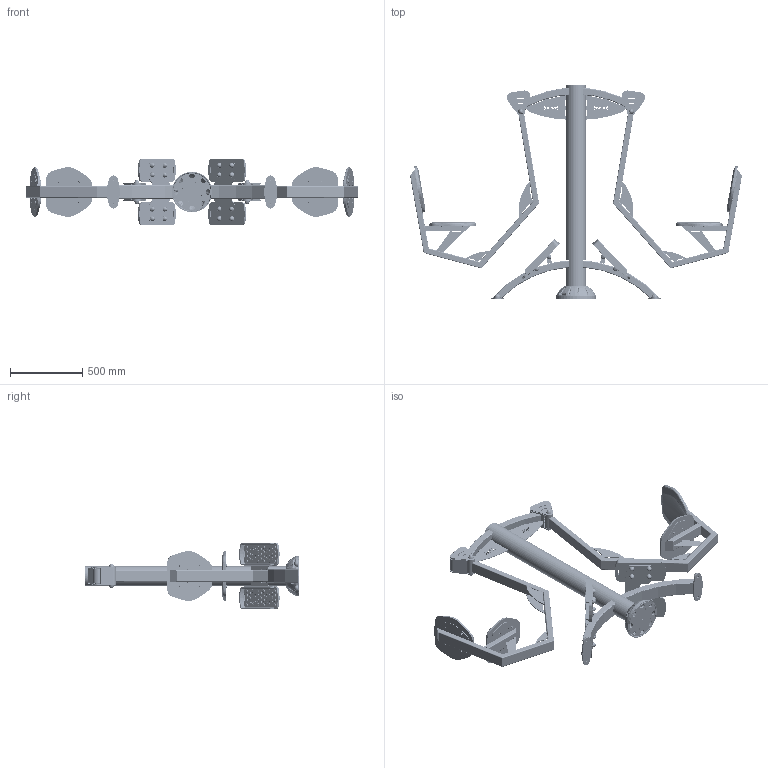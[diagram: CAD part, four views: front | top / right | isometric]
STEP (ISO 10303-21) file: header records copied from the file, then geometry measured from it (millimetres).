
FILE_DESCRIPTION (( 'STEP AP203' ), '1' );
FILE_NAME ('M0303A - QUADRICEPS DOUBLE V1.2.STEP', '2020-02-17T13:13:14', ( '' ), ( '' ), 'SwSTEP 2.0', 'SolidWorks 2019', '' );
FILE_SCHEMA (( 'CONFIG_CONTROL_DESIGN' ));
Length unit declared in the file: millimetre
Products named in the file (66): SRR0816 - Roulement  6204 47-20-14; SC0308 - Base pour capuchon en nylon 44 mm; SBB2108 - Plaque latérale courte pour chape 110 ep.6 boite a butee V1.0__; SBB2101.B - Flasque boite a butee V1.4; SR0415 - Rondelle Grower M8 A2; PU-TOLPLAT - Platine base V1.0; BATI-M0303A-F - CHASSIS QUADRICEPS-QUADRICEPS ASS V1.0_RAL7012; SSD0720 - SIEGE DOSSIER ASS V1.2_‚p.3 - Fixation dossier; SB0122 - Vis CHC M8x35 inox A2; TRECT-R750 - Tube rectangulaire cintré R750 100x50x3 L775 V1.0_RAL7012; SC0306C - Petit capuchon en nylon 36 mm; POTSIEG-M0303 - POTENCE SIEGE QUADRICEPS ASS V1.5; SRP0206 - Repose pied V3.1; SC0309 - Petit capuchon en nylon 44 mm; SSD0720 - Dossier-siège V1.2; SB0101 - Vis CHC M8x40 inox A2; PU-TOLGORPQUA - gousset repose pied Quadriceps V1.1; PU-TDRFIT281 - Tole renfort Fitpark L281 H170 V1.0; TOLGOUDINFQUA - Tôle Gousset double inferieur quadriceps V1.0 .; SRP0206 - REPOSE PIED ASS V4.0_Capuchon Ｑ 5; SA1409A - Axe Inox D.20mm L156,3mm V1.0; SSD0720 - SIEGE DOSSIER ASS V1.2_‚p.5 - Fixation dossier; SBB2140 - BOITE A BUTEE AVEC DOUBLE ARRONDIS FERMES ASS V1.0_Chape 110; SUPPORT BUTEE CHAPE 110 ASS V4.3_Avec but‚e simple + but‚e double + cale 6 mm; PU-TOLGOSIQUA - Gousset siège Quadriceps V2.0; SCH1806.A - Chapeau D135 V1.2; PU-TOLGOPL - Gousset platine V2.0; TRECT-R750 - Tube rectangulaire cintré R750 100x50x3 L1310 V1.0; ARTICULATION D60 CHAPE 110 V4.0_Avec rondelle SR0431; SSD0718 - Demi plaque dossier béton pour tube 80x40 V1.1; SF1100 - Ecrou frein M8 A2; SBU1008 - Butee elastomere 60x55x20 V1.0; TOLAPQUA - Tole appui pieds Quadriceps V1.0; SCH1808 - Chapeau 76x51 pour tube 80x40 coupe à 45°; TREPOSIE-M0303 - Tube potence siège Quadriceps V1.1; SBB2102 - Plaque latérale pour chape 110 ep.6 boite a butee V1.2__; SBB2109 - Cale pour butee ep.6 V1.0; SSD0720 - SIEGE DOSSIER ASS V1.2_‚p.5 - Fixation siŠge; SBA1600 - Bague 6204 L107 V1.0; SSD0716 - Demi support siège béton pour tube 80x40 V1.1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
Assembly tree (263 placements, depth 4):
  M0303A - QUADRICEPS DOUBLE V1.2
    BATI-M0303A-F - CHASSIS QUADRICEPS-QUADRICEPS ASS V1.0_RAL7012
      PLATINE BASE ASS V2.0_RAL7012
        PU-TOLPLAT - Platine base V1.0
        PU-TOLGOPL - Gousset platine V2.0  x4
      PU-TROCB1468 - Colonne base haute D.139,7x3 Ht1468 V2.1
      SCH1806.A - Chapeau D135 V1.2
      PU-TDRFIT281 - Tole renfort Fitpark L281 H170 V1.0  x2
      TRECT-R750 - Tube rectangulaire cintré R750 100x50x3 L1310 V1.0
      SBB2140 - BOITE A BUTEE AVEC DOUBLE ARRONDIS FERMES ASS V1.0_Chape 110
        SBB2102 - Plaque latérale pour chape 110 ep.6 boite a butee V1.2__
        SBB2101.B - Flasque boite a butee V1.4  x2
        SBB2108 - Plaque latérale courte pour chape 110 ep.6 boite a butee V1.0__  x2
        SBB2107 - Arrondi ferme boite a butee pour chape 110 V1.0  x2
      TOLPL-230-90.A - Platine 230x90 V1.0  x2
      TOLAPQUA - Tole appui pieds Quadriceps V1.0  x2
      PU-TOLGORPQUA - gousset repose pied Quadriceps V1.1  x2
      SBB2140 - BOITE A BUTEE AVEC DOUBLE ARRONDIS FERMES ASS V1.0_Chape 110
        SBB2102 - Plaque latérale pour chape 110 ep.6 boite a butee V1.2__
        SBB2101.B - Flasque boite a butee V1.4  x2
        SBB2108 - Plaque latérale courte pour chape 110 ep.6 boite a butee V1.0__  x2
        SBB2107 - Arrondi ferme boite a butee pour chape 110 V1.0  x2
      TRECT-R750 - Tube rectangulaire cintré R750 100x50x3 L775 V1.0_RAL7012
    POTSIEG-M0303 - POTENCE SIEGE QUADRICEPS ASS V1.5
      TREPOSIE-M0303 - Tube potence siège Quadriceps V1.1
      TRESOSIE-M0303 - Tube sous siège Quadriceps V1.0
      SSD0716 - Demi support siège béton pour tube 80x40 V1.1  x2
      SSD0718 - Demi plaque dossier béton pour tube 80x40 V1.1  x2
      SBA1600 - Bague 6204 L107 V1.0
      SUPPORT BUTEE CHAPE 110 ASS V4.3_Avec but‚e simple + but‚e double + cale 6 mm
        SBB2105.A - Support butee chape 110 V1.1
        SBB2104 - Paroie support butee V4.1  x2
        SBU1007 - Butee elastomere 60x38x20 V1.1_60x38x20
        SF1100 - Ecrou frein M8 A2  x2
        SBB2109 - Cale pour butee ep.6 V1.0
        SB0101 - Vis CHC M8x40 inox A2
        SBU1008 - Butee elastomere 60x55x20 V1.0
        SR0404 - Rondelle plate Moyenne M8 A2  x4
        SB0122 - Vis CHC M8x35 inox A2
      SCH1808 - Chapeau 76x51 pour tube 80x40 coupe à 45°  x2
      PU-TOLGOSIQUA - Gousset siège Quadriceps V2.0
      TOLGODOUPOQUA - Gousset double potence Quadriceps V1.0  x2
      TOLGOUDINFQUA - Tôle Gousset double inferieur quadriceps V1.0 .  x2
    SRP0206 - REPOSE PIED ASS V4.0_Capuchon Ｑ 5
      SRP0206 - Repose pied V3.1
      SR0404 - Rondelle plate Moyenne M8 A2  x4
      SC0306B - Base pour capuchon en nylon 36mm  x4
      SF1100 - Ecrou frein M8 A2  x4
      SC0306C - Petit capuchon en nylon 36 mm  x4
    SRP0206 - REPOSE PIED ASS V4.0_Capuchon Ｑ 5
      SRP0206 - Repose pied V3.1
      SR0404 - Rondelle plate Moyenne M8 A2  x4
      SC0306B - Base pour capuchon en nylon 36mm  x4
      SF1100 - Ecrou frein M8 A2  x4
      SC0306C - Petit capuchon en nylon 36 mm  x4
    ARTICULATION D60 CHAPE 110 V4.0_Avec rondelle SR0431
      SA1409A - Axe Inox D.20mm L156,3mm V1.0
      SC0306B - Base pour capuchon en nylon 36mm  x2
      SC0306C - Petit capuchon en nylon 36 mm  x2
      SF1101 - Ecrou frein M10 A2  x2
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Bounding box: 2302.31 x 1486.7 x 463.54 mm (x, y, z)
Volume: 24901377.1 mm3; surface area: 8226254.9 mm2
Topology: 261 solids, 293 shells, 8728 faces, 21568 edges, 13788 vertices
Faces by surface type: plane 2988, cylinder 2302, cone 1214, bspline 1084, torus 948, sphere 192
Entity records: 188856 total; most frequent: CARTESIAN_POINT 119871, ORIENTED_EDGE 12172, DIRECTION 11371, EDGE_CURVE 6086, AXIS2_PLACEMENT_3D 4447, VERTEX_POINT 3909, EDGE_LOOP 2695, LINE 2477
